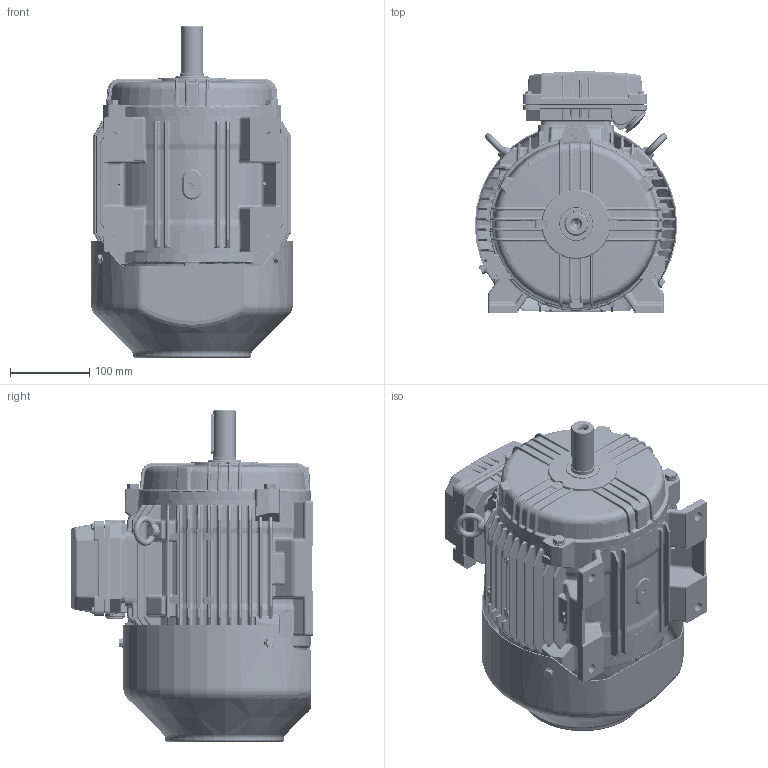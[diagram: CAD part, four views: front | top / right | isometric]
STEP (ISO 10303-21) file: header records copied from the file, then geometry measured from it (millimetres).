
FILE_DESCRIPTION (( 'STEP AP203' ), '1' );
FILE_NAME ('0211200278_RevA.STEP', '2023-05-12T12:25:32', ( '' ), ( '' ), 'SwSTEP 2.0', 'SolidWorks 2021', '' );
FILE_SCHEMA (( 'CONFIG_CONTROL_DESIGN' ));
Products named in the file (1): 0211200278_RevA
Bounding box: 255.4 x 305.88 x 419 mm (x, y, z)
Volume: 3117663.3 mm3; surface area: 1281915.8 mm2
Topology: 35 solids, 35 shells, 7970 faces, 19389 edges, 11372 vertices
Faces by surface type: cylinder 2547, bspline 2018, plane 1329, cone 799, torus 799, sphere 478
Entity records: 303875 total; most frequent: CARTESIAN_POINT 131453, ORIENTED_EDGE 38278, DIRECTION 34212, EDGE_CURVE 19139, AXIS2_PLACEMENT_3D 14290, VERTEX_POINT 11354, EDGE_LOOP 8493, CIRCLE 8337
